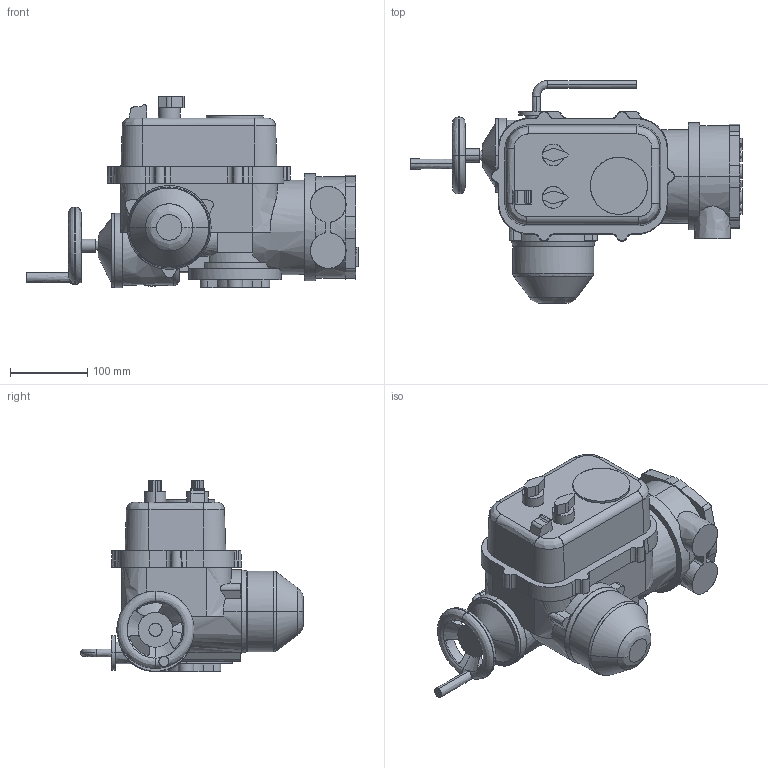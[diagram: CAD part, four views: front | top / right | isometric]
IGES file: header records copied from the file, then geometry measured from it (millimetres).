
Start section: Comment
Global section: file name: Q100PAK-1.igs; native system:  By Spatial Corp.; preprocessor: XPlus PS/IGES 3.0; author: Paul Exton; organization: Rotork Controls Ltd; date: 20030616.140541; units: millimetre
Bounding box: 430 x 288.65 x 248.2 mm (x, y, z)
Surface area: 338084 mm2 (no closed solid volume)
Topology: 0 solids, 0 shells, 452 faces, 2566 edges, 2550 vertices
Faces by surface type: bspline 452
